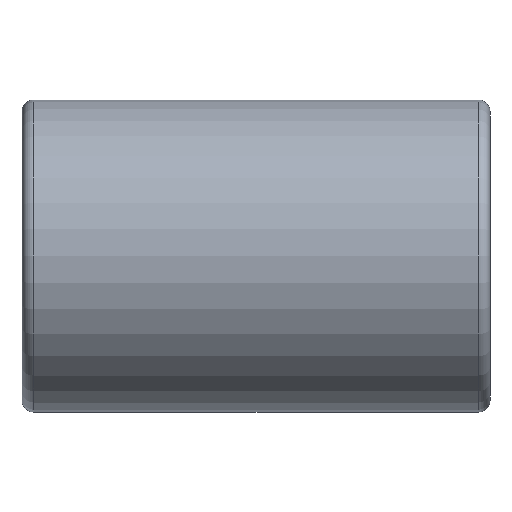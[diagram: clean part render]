
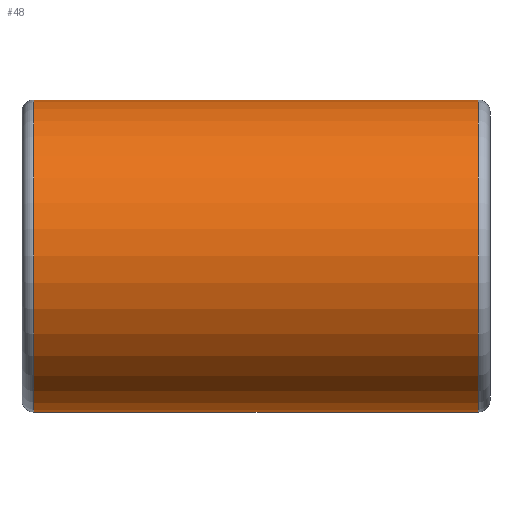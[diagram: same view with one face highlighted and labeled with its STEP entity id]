
A CAD part, front view. The second image highlights one B-rep face of the part: STEP entity #48.
In plain terms, the highlighted cylindrical face has radius 4 mm (diameter 8 mm), a full revolution.
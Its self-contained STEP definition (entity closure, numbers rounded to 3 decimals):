
#48 = ADVANCED_FACE( '', ( #99, #100 ), #101, .T. );
#99 = FACE_OUTER_BOUND( '', #146, .T. );
#100 = FACE_OUTER_BOUND( '', #147, .T. );
#101 = CYLINDRICAL_SURFACE( '', #148, 4. );
#146 = EDGE_LOOP( '', ( #201 ) );
#147 = EDGE_LOOP( '', ( #202 ) );
#148 = AXIS2_PLACEMENT_3D( '', #203, #204, #205 );
#201 = ORIENTED_EDGE( '', *, *, #235, .F. );
#202 = ORIENTED_EDGE( '', *, *, #225, .T. );
#203 = CARTESIAN_POINT( '', ( 6., 0., 0. ) );
#204 = DIRECTION( '', ( -1., 0., 0. ) );
#205 = DIRECTION( '', ( 0., 1., 0. ) );
#225 = EDGE_CURVE( '', #249, #249, #250, .T. );
#235 = EDGE_CURVE( '', #264, #264, #265, .T. );
#249 = VERTEX_POINT( '', #279 );
#250 = CIRCLE( '', #280, 4. );
#264 = VERTEX_POINT( '', #294 );
#265 = CIRCLE( '', #295, 4. );
#279 = CARTESIAN_POINT( '', ( 11.7, 4., 0. ) );
#280 = AXIS2_PLACEMENT_3D( '', #310, #311, #312 );
#294 = CARTESIAN_POINT( '', ( 0.3, 4., 0. ) );
#295 = AXIS2_PLACEMENT_3D( '', #325, #326, #327 );
#310 = CARTESIAN_POINT( '', ( 11.7, 0., 0. ) );
#311 = DIRECTION( '', ( -1., 0., 0. ) );
#312 = DIRECTION( '', ( 0., 1., 0. ) );
#325 = CARTESIAN_POINT( '', ( 0.3, 0., 0. ) );
#326 = DIRECTION( '', ( -1., 0., 0. ) );
#327 = DIRECTION( '', ( 0., 1., 0. ) );
